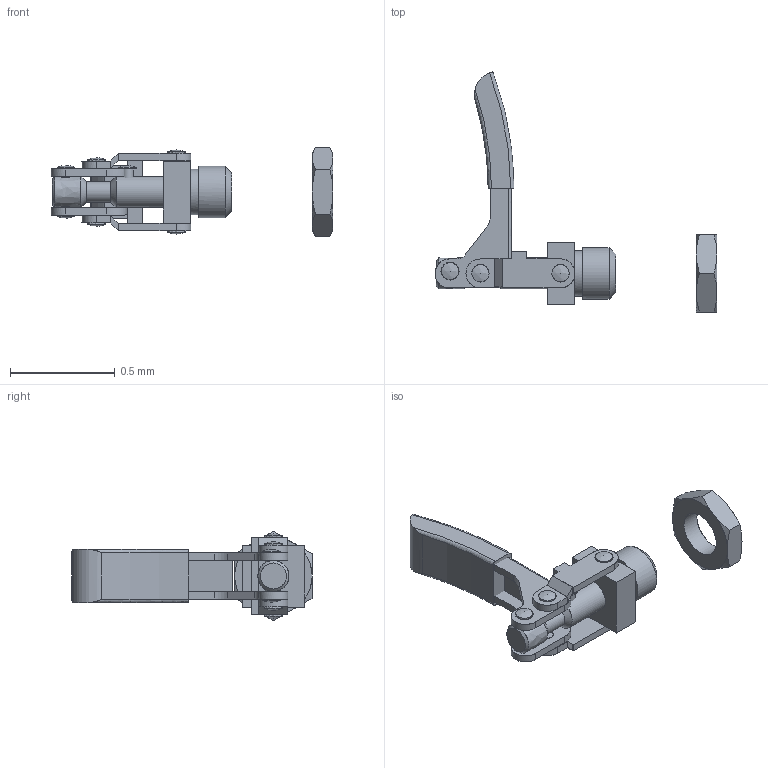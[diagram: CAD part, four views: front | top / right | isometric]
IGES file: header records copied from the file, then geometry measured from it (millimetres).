
Start section:  Autodesk DirectConnect version 7.0.27.0 ---- IGES version 5.3
Global section: file name: C:\Users\Nick\Desktop\PHL Sereis\PHL-253\3D\phl-253 Open.igs; native system: Autodesk DirectConnect 7.0.27.0; preprocessor: 7.0.27.0; author: Nick; organization: Unknown; date: 20150724.143053; units: millimetre
Bounding box: 1.34 x 1.15 x 0.43 mm (x, y, z)
Surface area: 3.6 mm2 (no closed solid volume)
Topology: 0 solids, 0 shells, 178 faces, 1251 edges, 1239 vertices
Faces by surface type: bspline 178
